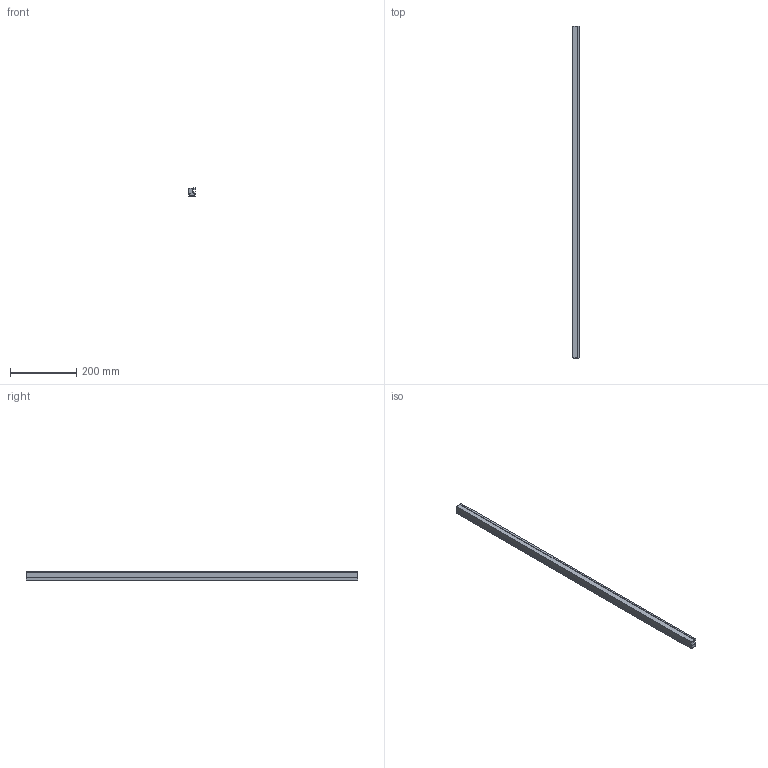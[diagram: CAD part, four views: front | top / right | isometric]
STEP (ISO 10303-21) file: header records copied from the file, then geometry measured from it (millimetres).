
FILE_DESCRIPTION(('CATIA V5 STEP Exchange'),'2;1');
FILE_NAME('C:\Users\ALI OZGUN\Desktop\alhan\PROFILLER\2071TTC38.stp','2017-12-29T14:03:02+00:00',('none'),('none'),'CATIA Version 5 Release 21 GA (IN-10)','CATIA V5 STEP AP203','none');
FILE_SCHEMA(('CONFIG_CONTROL_DESIGN'));
Length unit declared in the file: millimetre
Products named in the file (1): 2071TTC38
Bounding box: 20 x 1000 x 27 mm (x, y, z)
Volume: 430351.6 mm3; surface area: 219743.9 mm2
Topology: 2 solids, 2 shells, 42 faces, 114 edges, 76 vertices
Faces by surface type: plane 38, cylinder 4
Entity records: 1273 total; most frequent: ORIENTED_EDGE 228, CARTESIAN_POINT 220, DIRECTION 172, EDGE_CURVE 114, VECTOR 106, LINE 106, VERTEX_POINT 76, ADVANCED_FACE 42
